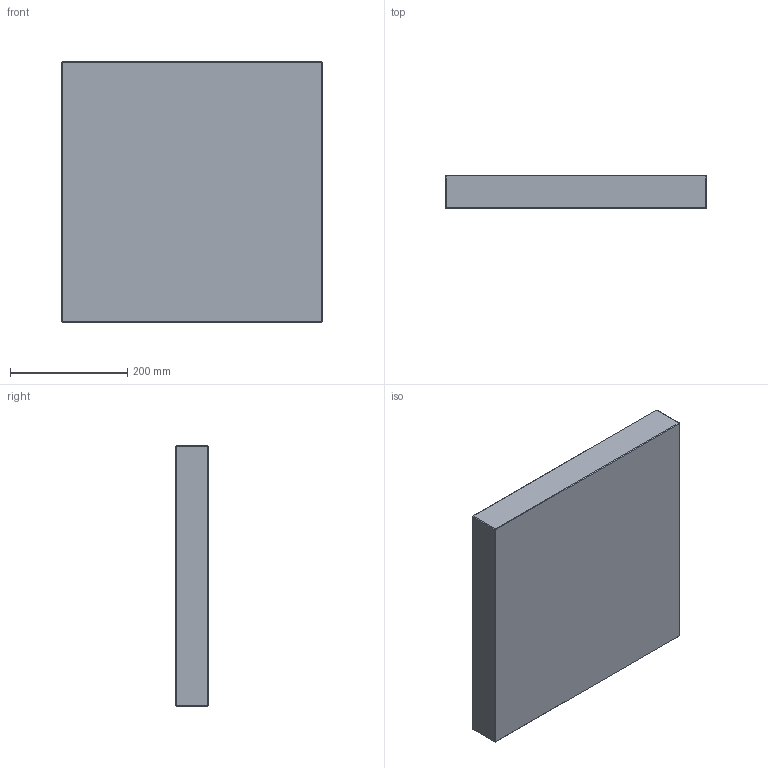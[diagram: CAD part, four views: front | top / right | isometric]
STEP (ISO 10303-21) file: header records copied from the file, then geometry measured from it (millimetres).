
FILE_DESCRIPTION (( 'STEP AP214' ), '1' );
FILE_NAME ('PC-P-446x446x56.STEP', '2020-04-01T11:06:01', ( 'August' ), ( '' ), 'SwSTEP 2.0', 'SolidWorks 2018', '' );
FILE_SCHEMA (( 'AUTOMOTIVE_DESIGN' ));
Length unit declared in the file: millimetre
Products named in the file (1): PC-P-446x446x56
Bounding box: 446 x 56 x 446 mm (x, y, z)
Volume: 11137405.3 mm3; surface area: 495511.7 mm2
Topology: 1 solids, 1 shells, 26 faces, 48 edges, 24 vertices
Faces by surface type: plane 26
Entity records: 634 total; most frequent: DIRECTION 102, CARTESIAN_POINT 99, ORIENTED_EDGE 96, EDGE_CURVE 48, LINE 48, VECTOR 48, AXIS2_PLACEMENT_3D 27, PLANE 26
